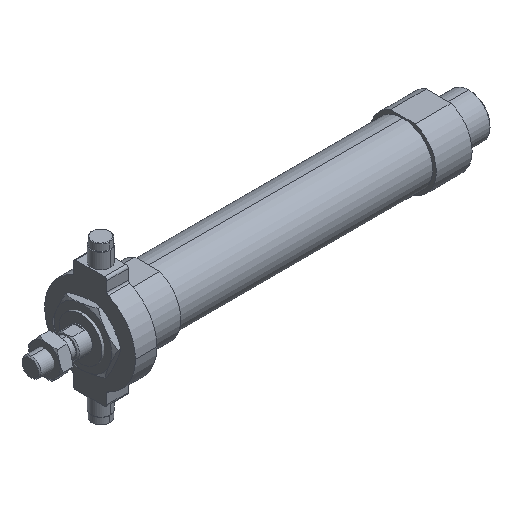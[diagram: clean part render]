
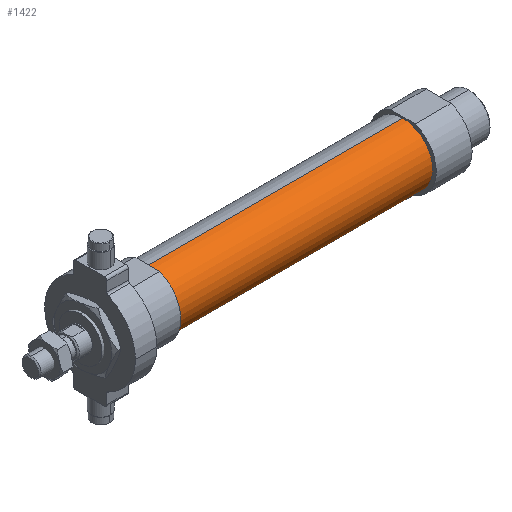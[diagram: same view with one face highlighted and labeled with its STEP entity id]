
A CAD part, isometric view. The second image highlights one B-rep face of the part: STEP entity #1422.
In plain terms, the highlighted cylindrical face has radius 12.5 mm (diameter 25 mm), a partial arc.
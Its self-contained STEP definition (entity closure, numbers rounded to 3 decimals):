
#53 = DIRECTION ( 'NONE',  ( -1., 0., 0. ) ) ;
#447 = DIRECTION ( 'NONE',  ( -1., 0., 0. ) ) ;
#463 = DIRECTION ( 'NONE',  ( -1., 0., 0. ) ) ;
#476 = CARTESIAN_POINT ( 'NONE',  ( 49., 0., 12.5 ) ) ;
#582 = CIRCLE ( 'NONE', #2693, 12.5 ) ;
#760 = ORIENTED_EDGE ( 'NONE', *, *, #1428, .T. ) ;
#862 = VERTEX_POINT ( 'NONE', #3647 ) ;
#920 = LINE ( 'NONE', #3457, #3790 ) ;
#1091 = CARTESIAN_POINT ( 'NONE',  ( 49., 0., 0. ) ) ;
#1238 = VERTEX_POINT ( 'NONE', #476 ) ;
#1244 = DIRECTION ( 'NONE',  ( -1., 0., 0. ) ) ;
#1279 = AXIS2_PLACEMENT_3D ( 'NONE', #1091, #447, #2214 ) ;
#1374 = EDGE_CURVE ( 'NONE', #862, #1238, #2116, .T. ) ;
#1390 = CYLINDRICAL_SURFACE ( 'NONE', #2625, 12.5 ) ;
#1422 = ADVANCED_FACE ( 'NONE', ( #4176 ), #1390, .T. ) ;
#1428 = EDGE_CURVE ( 'NONE', #3436, #1238, #3012, .T. ) ;
#1931 = EDGE_CURVE ( 'NONE', #4434, #862, #920, .T. ) ;
#2116 = CIRCLE ( 'NONE', #1279, 12.5 ) ;
#2214 = DIRECTION ( 'NONE',  ( 0., 0., 1. ) ) ;
#2363 = EDGE_CURVE ( 'NONE', #4434, #3436, #582, .T. ) ;
#2426 = CARTESIAN_POINT ( 'NONE',  ( 156., 0., 12.5 ) ) ;
#2625 = AXIS2_PLACEMENT_3D ( 'NONE', #2804, #463, #2737 ) ;
#2693 = AXIS2_PLACEMENT_3D ( 'NONE', #3068, #3640, #2724 ) ;
#2724 = DIRECTION ( 'NONE',  ( 0., 0., 1. ) ) ;
#2737 = DIRECTION ( 'NONE',  ( 0., 0., 1. ) ) ;
#2804 = CARTESIAN_POINT ( 'NONE',  ( -6.469, 0., 0. ) ) ;
#2929 = CARTESIAN_POINT ( 'NONE',  ( -6.469, 0., 12.5 ) ) ;
#3012 = LINE ( 'NONE', #2929, #3874 ) ;
#3068 = CARTESIAN_POINT ( 'NONE',  ( 156., 0., 0. ) ) ;
#3182 = EDGE_LOOP ( 'NONE', ( #3233, #3473, #760, #3382 ) ) ;
#3233 = ORIENTED_EDGE ( 'NONE', *, *, #1931, .F. ) ;
#3382 = ORIENTED_EDGE ( 'NONE', *, *, #1374, .F. ) ;
#3436 = VERTEX_POINT ( 'NONE', #2426 ) ;
#3457 = CARTESIAN_POINT ( 'NONE',  ( -6.469, 0., -12.5 ) ) ;
#3473 = ORIENTED_EDGE ( 'NONE', *, *, #2363, .T. ) ;
#3640 = DIRECTION ( 'NONE',  ( -1., 0., 0. ) ) ;
#3647 = CARTESIAN_POINT ( 'NONE',  ( 49., 0., -12.5 ) ) ;
#3790 = VECTOR ( 'NONE', #53, 1000. ) ;
#3849 = CARTESIAN_POINT ( 'NONE',  ( 156., 0., -12.5 ) ) ;
#3874 = VECTOR ( 'NONE', #1244, 1000. ) ;
#4176 = FACE_OUTER_BOUND ( 'NONE', #3182, .T. ) ;
#4434 = VERTEX_POINT ( 'NONE', #3849 ) ;
